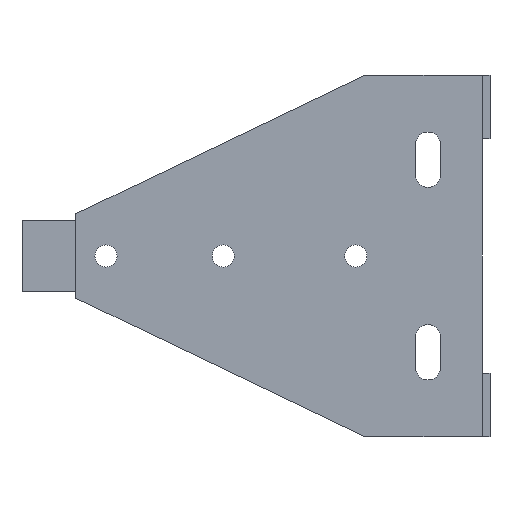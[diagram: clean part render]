
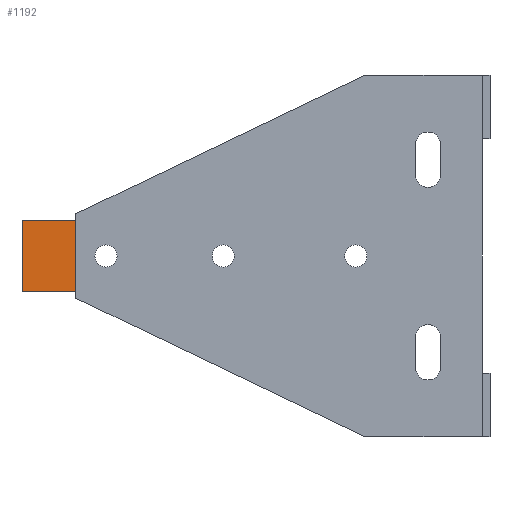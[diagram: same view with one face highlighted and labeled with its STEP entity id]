
A CAD part, left-side view. The second image highlights one B-rep face of the part: STEP entity #1192.
In plain terms, the highlighted planar face has unit normal (-1, 0, 0).
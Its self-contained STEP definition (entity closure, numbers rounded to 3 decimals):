
#318 = ORIENTED_EDGE ( 'NONE', *, *, #2917, .F. ) ;
#319 = ORIENTED_EDGE ( 'NONE', *, *, #2470, .F. ) ;
#323 = ORIENTED_EDGE ( 'NONE', *, *, #2504, .T. ) ;
#383 = ORIENTED_EDGE ( 'NONE', *, *, #2609, .T. ) ;
#569 = PLANE ( 'NONE',  #2527 ) ;
#572 = CARTESIAN_POINT ( 'NONE',  ( 1.5, 79.252, 5.9 ) ) ;
#578 = DIRECTION ( 'NONE',  ( 1., 0., 0. ) ) ;
#579 = DIRECTION ( 'NONE',  ( 0., 0., -1. ) ) ;
#878 = CARTESIAN_POINT ( 'NONE',  ( 1.5, 67.45, 5.9 ) ) ;
#879 = CARTESIAN_POINT ( 'NONE',  ( 1.5, 67.45, -5.9 ) ) ;
#1004 = CARTESIAN_POINT ( 'NONE',  ( 1.5, 58.5, 5.9 ) ) ;
#1012 = CARTESIAN_POINT ( 'NONE',  ( 1.5, 58.5, -5.9 ) ) ;
#1125 = CARTESIAN_POINT ( 'NONE',  ( 1.5, 67.45, 5.9 ) ) ;
#1129 = DIRECTION ( 'NONE',  ( 0., 0., 1. ) ) ;
#1192 = ADVANCED_FACE ( 'NONE', ( #1373 ), #569, .F. ) ;
#1288 = EDGE_LOOP ( 'NONE', ( #383, #323, #318, #319 ) ) ;
#1373 = FACE_OUTER_BOUND ( 'NONE', #1288, .T. ) ;
#1517 = LINE ( 'NONE', #2088, #1518 ) ;
#1518 = VECTOR ( 'NONE', #2089, 1000. ) ;
#1620 = VERTEX_POINT ( 'NONE', #878 ) ;
#1621 = VERTEX_POINT ( 'NONE', #879 ) ;
#1746 = VERTEX_POINT ( 'NONE', #1004 ) ;
#1754 = VERTEX_POINT ( 'NONE', #1012 ) ;
#1918 = CARTESIAN_POINT ( 'NONE',  ( 1.5, 58.5, -7. ) ) ;
#1925 = DIRECTION ( 'NONE',  ( 0., 0., 1. ) ) ;
#2088 = CARTESIAN_POINT ( 'NONE',  ( 1.5, 79.252, -5.9 ) ) ;
#2089 = DIRECTION ( 'NONE',  ( 0., -1., 0. ) ) ;
#2470 = EDGE_CURVE ( 'NONE', #1621, #1620, #3897, .T. ) ;
#2504 = EDGE_CURVE ( 'NONE', #1754, #1746, #3942, .T. ) ;
#2527 = AXIS2_PLACEMENT_3D ( 'NONE', #572, #578, #579 ) ;
#2609 = EDGE_CURVE ( 'NONE', #1621, #1754, #1517, .T. ) ;
#2917 = EDGE_CURVE ( 'NONE', #1620, #1746, #3984, .T. ) ;
#3060 = CARTESIAN_POINT ( 'NONE',  ( 1.5, 79.252, 5.9 ) ) ;
#3061 = DIRECTION ( 'NONE',  ( 0., -1., 0. ) ) ;
#3897 = LINE ( 'NONE', #1125, #3902 ) ;
#3902 = VECTOR ( 'NONE', #1129, 1000. ) ;
#3937 = VECTOR ( 'NONE', #1925, 1000. ) ;
#3942 = LINE ( 'NONE', #1918, #3937 ) ;
#3984 = LINE ( 'NONE', #3060, #3985 ) ;
#3985 = VECTOR ( 'NONE', #3061, 1000. ) ;
